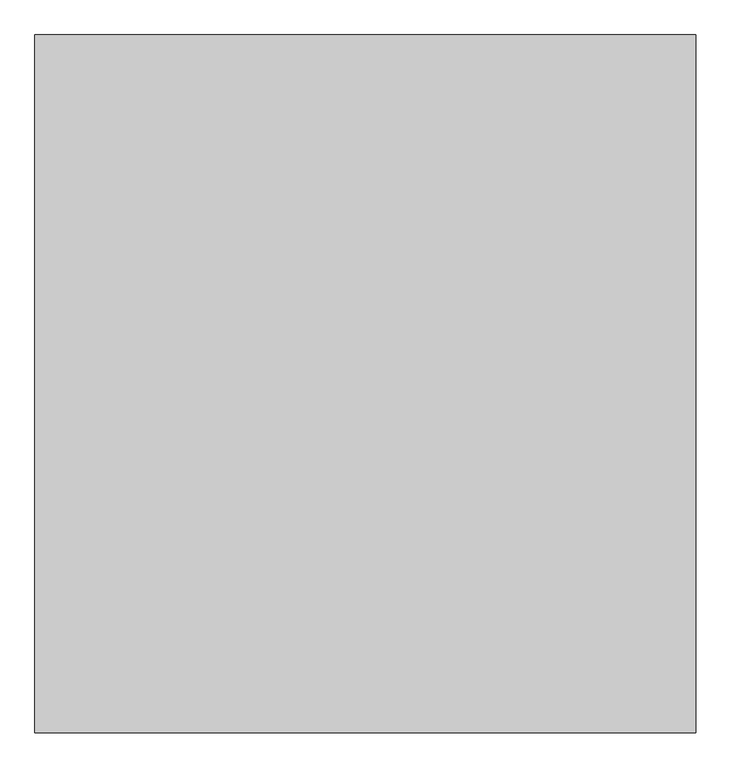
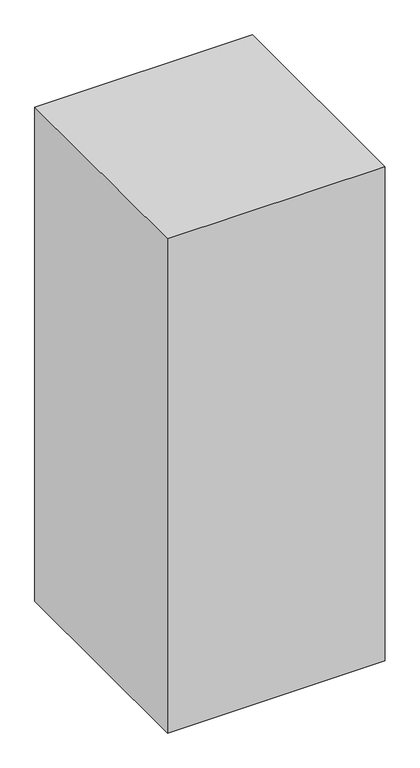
"""IFC4 building model written with IfcOpenShell, lengths in millimetres: proxy geometry, サービススペース : サービススペース."""

from ifc_helpers import new_model, si_unit, frame, origin, place, context, project, spatial, polyline, outline, extrude, source, transform, mapped, element, save


def specialty_equipment_777d3eea(model_context):
    return source(origin(), model_context, "Body", "SweptSolid", [
        extrude(outline(polyline([(625.0, 660.0), (625.0, -660.0), (-625.0, -660.0), (-625.0, 660.0), (625.0, 660.0)])), frame((0.0, 0.0, -1500.0), z_axis=(0.0, 0.0, 1.0), x_axis=(1.0, 0.0, 0.0)), (0.0, 0.0, 1.0), 3000.0),
    ])


if __name__ == "__main__":
    model = new_model("IFC4")
    model_context = context("Model", 3, world=origin())
    ifc_project = project(units=[si_unit("LENGTHUNIT", "METRE", prefix="MILLI")], contexts=[model_context])
    site = spatial("IfcSite", under=ifc_project)
    building = spatial("IfcBuilding", under=site)
    placement = place(None, origin())
    specialty_equipment_shape = specialty_equipment_777d3eea(model_context)
    element("IfcBuildingElementProxy", 1, Name="サービススペース : サービススペース", ObjectType="サービススペース : サービススペース", at=placement, inside=building, context=model_context, shape_type="MappedRepresentation", body=[
        mapped(specialty_equipment_shape, transform((0.0, 0.0, 0.0), x_axis=(1.0, 0.0, 0.0), y_axis=(0.0, 1.0, 0.0), z_axis=(0.0, 0.0, 1.0))),
    ])
    save(model, "model.ifc")
